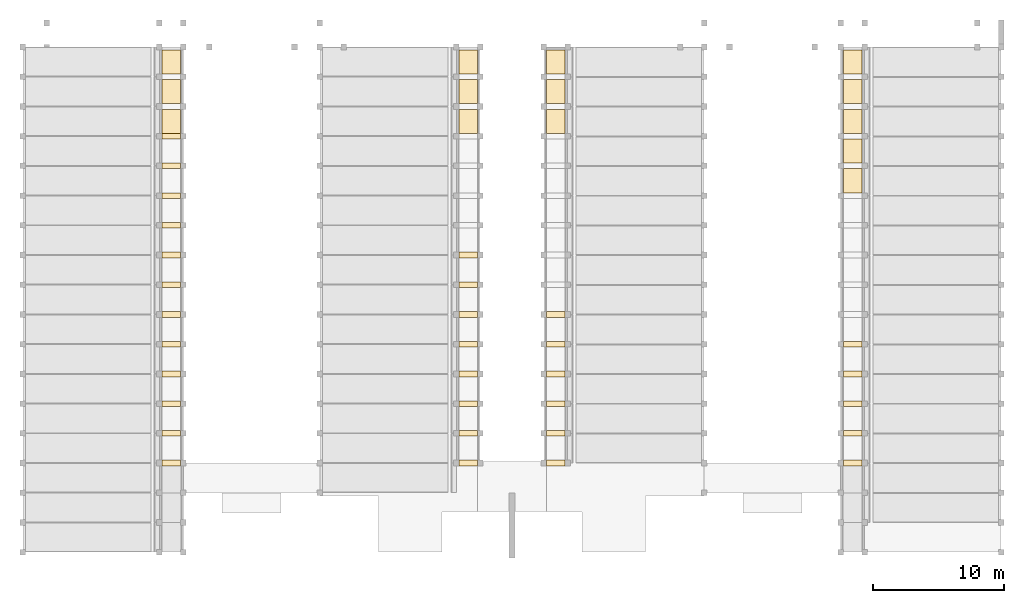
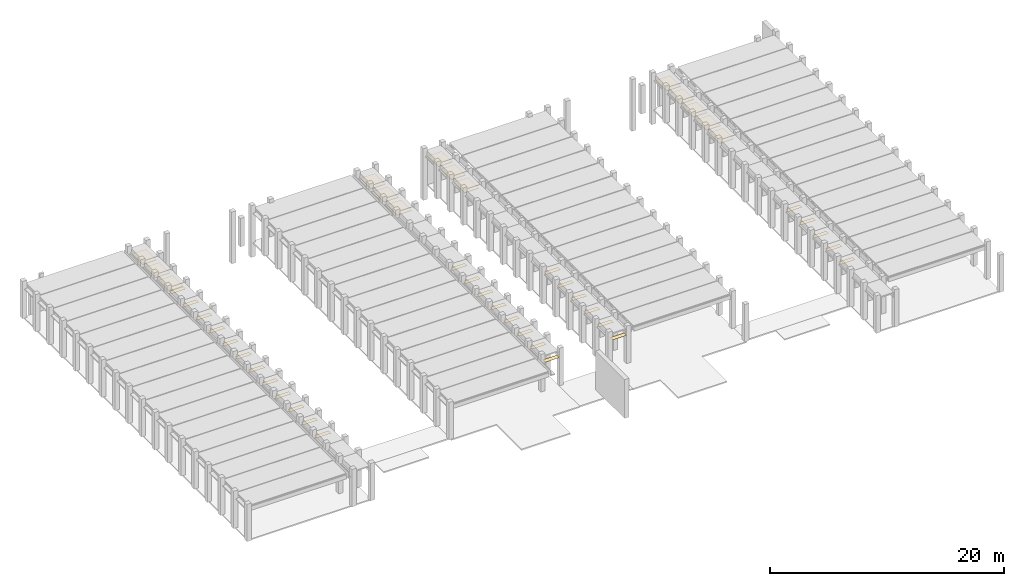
# One storey, part 20 of 21: 45 coverings.
"""IFC2X3 building model written with IfcOpenShell, lengths in millimetres."""

from ifc_helpers import new_model, entity, si_unit, converted_unit, derived_unit, direction, frame, frame_2d, origin, place, context, subcontext, project, spatial, rectangle, extrude, face_set, surface_model, material, layer, layer_set, layer_usage, type_object, element, save


model = new_model("IFC2X3")

# Units and contexts
model_context = context("Model", 3, precision=0.01, world=origin(), true_north=direction((6.12303176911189e-17, 1.0)))
body_context = subcontext(model_context, "Body", "Model", "MODEL_VIEW")
ifc_project = project(units=[si_unit("LENGTHUNIT", "METRE", prefix="MILLI"), si_unit("AREAUNIT", "SQUARE_METRE"), si_unit("VOLUMEUNIT", "CUBIC_METRE"), converted_unit("PLANEANGLEUNIT", "DEGREE", entity("IfcRatioMeasure", 0.0174532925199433), si_unit("PLANEANGLEUNIT", "RADIAN"), dimensions=[0, 0, 0, 0, 0, 0, 0]), si_unit("MASSUNIT", "GRAM", prefix="KILO"), derived_unit("MASSDENSITYUNIT", [(si_unit("MASSUNIT", "GRAM", prefix="KILO"), 1), (si_unit("LENGTHUNIT", "METRE"), -3)]), derived_unit("MOMENTOFINERTIAUNIT", [(si_unit("LENGTHUNIT", "METRE"), 4)]), si_unit("TIMEUNIT", "SECOND"), si_unit("FREQUENCYUNIT", "HERTZ"), si_unit("THERMODYNAMICTEMPERATUREUNIT", "DEGREE_CELSIUS"), derived_unit("THERMALTRANSMITTANCEUNIT", [(si_unit("MASSUNIT", "GRAM", prefix="KILO"), 1), (si_unit("THERMODYNAMICTEMPERATUREUNIT", "KELVIN"), -1), (si_unit("TIMEUNIT", "SECOND"), -3)]), derived_unit("VOLUMETRICFLOWRATEUNIT", [(si_unit("LENGTHUNIT", "METRE"), 3), (si_unit("TIMEUNIT", "SECOND"), -1)]), si_unit("ELECTRICCURRENTUNIT", "AMPERE"), si_unit("ELECTRICVOLTAGEUNIT", "VOLT"), si_unit("POWERUNIT", "WATT"), si_unit("FORCEUNIT", "NEWTON", prefix="KILO"), si_unit("ILLUMINANCEUNIT", "LUX"), si_unit("LUMINOUSFLUXUNIT", "LUMEN"), si_unit("LUMINOUSINTENSITYUNIT", "CANDELA"), derived_unit("USERDEFINED", [(si_unit("MASSUNIT", "GRAM", prefix="KILO"), -1), (si_unit("LENGTHUNIT", "METRE"), -2), (si_unit("TIMEUNIT", "SECOND"), 3), (si_unit("LUMINOUSFLUXUNIT", "LUMEN"), 1)]), derived_unit("LINEARVELOCITYUNIT", [(si_unit("LENGTHUNIT", "METRE"), 1), (si_unit("TIMEUNIT", "SECOND"), -1)]), si_unit("PRESSUREUNIT", "PASCAL"), derived_unit("USERDEFINED", [(si_unit("LENGTHUNIT", "METRE"), -2), (si_unit("MASSUNIT", "GRAM", prefix="KILO"), 1), (si_unit("TIMEUNIT", "SECOND"), -2)]), derived_unit("LINEARFORCEUNIT", [(si_unit("MASSUNIT", "GRAM", prefix="KILO"), 1), (si_unit("LENGTHUNIT", "METRE"), 1), (si_unit("TIMEUNIT", "SECOND"), -2), (si_unit("LENGTHUNIT", "METRE"), -1)]), derived_unit("PLANARFORCEUNIT", [(si_unit("MASSUNIT", "GRAM", prefix="KILO"), 1), (si_unit("LENGTHUNIT", "METRE"), 1), (si_unit("TIMEUNIT", "SECOND"), -2), (si_unit("LENGTHUNIT", "METRE"), -2)])], contexts=[model_context])

# Site, building, storey
site_placement = place(None, frame((10627.5135316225, 21939.0796949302, 0.0)))
site = spatial("IfcSite", under=ifc_project, at=site_placement, Name="Default", CompositionType="ELEMENT")
building_placement = place(site_placement, origin())
building = spatial("IfcBuilding", under=site, at=building_placement, CompositionType="ELEMENT")
storey_placement = place(building_placement, frame((0.0, 0.0, 7320.0)))
storey = spatial("IfcBuildingStorey", under=building, at=storey_placement, Name="R+2", CompositionType="ELEMENT", Elevation=7320.0)

# Coverings
ifc_material_1 = material(Name="Metal Stud Layer")
ifc_layer_1 = layer(ifc_material_1, 45.0)
ifc_material_2 = material(Name="PVC, Flexible")
ifc_layer_2 = layer(ifc_material_2, 12.0)
ifc_layer_set = layer_set([ifc_layer_1, ifc_layer_2], Name="Compound Ceiling:Plain")
ifc_layer_usage_1 = layer_usage(ifc_layer_set, "AXIS3", "POSITIVE", 0.0)
covering_type_1 = type_object("IfcCoveringType", Name="Compound Ceiling:Plain", PredefinedType="CEILING")
covering_1_placement = place(storey_placement, origin())
element("IfcCovering", 1, at=covering_1_placement, inside=storey, type_object=covering_type_1, material=ifc_layer_usage_1, Name="Compound Ceiling:Plain", ObjectType="Compound Ceiling:Plain", PredefinedType="CEILING", context=body_context, shape_type="SweptSolid", body=[
    extrude(rectangle(XDim=1828.30330426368, YDim=1400.00000000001, at=frame_2d((-1.08002495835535e-12, 0.0), x_axis=(1.0, 0.0))), frame((23257.4864683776, 15351.7686529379, 2959.0), z_axis=(0.0, 0.0, 1.0), x_axis=(0.0, -1.0, 0.0)), (0.0, 0.0, 1.0), 57.0),
])
ifc_layer_usage_2 = layer_usage(ifc_layer_set, "AXIS3", "POSITIVE", 0.0)
covering_type_2 = type_object("IfcCoveringType", Name="Compound Ceiling:Plain", PredefinedType="CEILING")
covering_2_placement = place(storey_placement, origin())
element("IfcCovering", 2, at=covering_2_placement, inside=storey, type_object=covering_type_2, material=ifc_layer_usage_2, Name="Compound Ceiling:Plain", ObjectType="Compound Ceiling:Plain", PredefinedType="CEILING", context=body_context, shape_type="SweptSolid", body=[
    extrude(rectangle(XDim=1828.30330426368, YDim=1400.00000000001, at=frame_2d((-1.08002495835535e-12, 0.0), x_axis=(1.0, 0.0))), frame((23257.4864683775, 13091.7686529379, 2959.0), z_axis=(0.0, 0.0, 1.0), x_axis=(0.0, -1.0, 0.0)), (0.0, 0.0, 1.0), 57.0),
])
ifc_layer_usage_3 = layer_usage(ifc_layer_set, "AXIS3", "POSITIVE", 0.0)
covering_type_3 = type_object("IfcCoveringType", Name="Compound Ceiling:Plain", PredefinedType="CEILING")
covering_3_placement = place(storey_placement, origin())
element("IfcCovering", 3, at=covering_3_placement, inside=storey, type_object=covering_type_3, material=ifc_layer_usage_3, Name="Compound Ceiling:Plain", ObjectType="Compound Ceiling:Plain", PredefinedType="CEILING", context=body_context, shape_type="SweptSolid", body=[
    extrude(rectangle(XDim=1828.30330426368, YDim=1400.00000000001, at=frame_2d((-1.08002495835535e-12, 0.0), x_axis=(1.0, 0.0))), frame((23257.4864683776, 10831.7686529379, 2959.0), z_axis=(0.0, 0.0, 1.0), x_axis=(0.0, -1.0, 0.0)), (0.0, 0.0, 1.0), 57.0),
])
ifc_layer_usage_4 = layer_usage(ifc_layer_set, "AXIS3", "POSITIVE", 0.0)
covering_type_4 = type_object("IfcCoveringType", Name="Compound Ceiling:Plain", PredefinedType="CEILING")
covering_4_placement = place(storey_placement, origin())
element("IfcCovering", 4, at=covering_4_placement, inside=storey, type_object=covering_type_4, material=ifc_layer_usage_4, Name="Compound Ceiling:Plain", ObjectType="Compound Ceiling:Plain", PredefinedType="CEILING", context=body_context, shape_type="SweptSolid", body=[
    extrude(rectangle(XDim=1828.30330426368, YDim=1400.00000000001, at=frame_2d((-1.08002495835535e-12, 0.0), x_axis=(1.0, 0.0))), frame((667.486468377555, 15351.768652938, 2959.0), z_axis=(0.0, 0.0, 1.0), x_axis=(0.0, -1.0, 0.0)), (0.0, 0.0, 1.0), 57.0),
])
ifc_layer_usage_5 = layer_usage(ifc_layer_set, "AXIS3", "POSITIVE", 0.0)
covering_type_5 = type_object("IfcCoveringType", Name="Compound Ceiling:Plain", PredefinedType="CEILING")
covering_5_placement = place(storey_placement, origin())
element("IfcCovering", 5, at=covering_5_placement, inside=storey, type_object=covering_type_5, material=ifc_layer_usage_5, Name="Compound Ceiling:Plain", ObjectType="Compound Ceiling:Plain", PredefinedType="CEILING", context=body_context, shape_type="SweptSolid", body=[
    extrude(rectangle(XDim=1828.30330426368, YDim=1400.00000000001, at=frame_2d((-1.08002495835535e-12, 0.0), x_axis=(1.0, 0.0))), frame((667.486468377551, 13091.768652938, 2959.0), z_axis=(0.0, 0.0, 1.0), x_axis=(0.0, -1.0, 0.0)), (0.0, 0.0, 1.0), 57.0),
])
ifc_layer_usage_6 = layer_usage(ifc_layer_set, "AXIS3", "POSITIVE", 0.0)
covering_type_6 = type_object("IfcCoveringType", Name="Compound Ceiling:Plain", PredefinedType="CEILING")
covering_6_placement = place(storey_placement, origin())
element("IfcCovering", 6, at=covering_6_placement, inside=storey, type_object=covering_type_6, material=ifc_layer_usage_6, Name="Compound Ceiling:Plain", ObjectType="Compound Ceiling:Plain", PredefinedType="CEILING", context=body_context, shape_type="SweptSolid", body=[
    extrude(rectangle(XDim=1828.30330426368, YDim=1400.00000000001, at=frame_2d((-1.08002495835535e-12, 0.0), x_axis=(1.0, 0.0))), frame((667.486468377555, 10831.768652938, 2959.0), z_axis=(0.0, 0.0, 1.0), x_axis=(0.0, -1.0, 0.0)), (0.0, 0.0, 1.0), 57.0),
])
ifc_layer_usage_7 = layer_usage(ifc_layer_set, "AXIS3", "POSITIVE", 0.0)
covering_type_7 = type_object("IfcCoveringType", Name="Compound Ceiling:Plain", PredefinedType="CEILING")
covering_7_placement = place(storey_placement, origin())
element("IfcCovering", 7, at=covering_7_placement, inside=storey, type_object=covering_type_7, material=ifc_layer_usage_7, Name="Compound Ceiling:Plain", ObjectType="Compound Ceiling:Plain", PredefinedType="CEILING", context=body_context, shape_type="SweptSolid", body=[
    extrude(rectangle(XDim=1400.00000000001, YDim=1828.30330426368, at=frame_2d((0.0, -1.08002495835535e-12), x_axis=(1.0, 0.0))), frame((29897.4864683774, 15351.7686529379, 2959.0), z_axis=(0.0, 0.0, 1.0), x_axis=(-1.0, 0.0, 0.0)), (0.0, 0.0, 1.0), 57.0),
])
ifc_layer_usage_8 = layer_usage(ifc_layer_set, "AXIS3", "POSITIVE", 0.0)
covering_type_8 = type_object("IfcCoveringType", Name="Compound Ceiling:Plain", PredefinedType="CEILING")
covering_8_placement = place(storey_placement, origin())
element("IfcCovering", 8, at=covering_8_placement, inside=storey, type_object=covering_type_8, material=ifc_layer_usage_8, Name="Compound Ceiling:Plain", ObjectType="Compound Ceiling:Plain", PredefinedType="CEILING", context=body_context, shape_type="SweptSolid", body=[
    extrude(rectangle(XDim=1400.00000000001, YDim=1828.30330426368, at=frame_2d((0.0, 1.08002495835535e-12), x_axis=(1.0, 0.0))), frame((29897.4864683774, 13091.7686529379, 2959.0), z_axis=(0.0, 0.0, 1.0), x_axis=(-1.0, 0.0, 0.0)), (0.0, 0.0, 1.0), 57.0),
])
ifc_layer_usage_9 = layer_usage(ifc_layer_set, "AXIS3", "POSITIVE", 0.0)
covering_type_9 = type_object("IfcCoveringType", Name="Compound Ceiling:Plain", PredefinedType="CEILING")
covering_9_placement = place(storey_placement, origin())
element("IfcCovering", 9, at=covering_9_placement, inside=storey, type_object=covering_type_9, material=ifc_layer_usage_9, Name="Compound Ceiling:Plain", ObjectType="Compound Ceiling:Plain", PredefinedType="CEILING", context=body_context, shape_type="SweptSolid", body=[
    extrude(rectangle(XDim=1400.00000000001, YDim=1828.30330426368, at=frame_2d((0.0, -1.08002495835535e-12), x_axis=(1.0, 0.0))), frame((29897.4864683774, 10831.7686529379, 2959.0), z_axis=(0.0, 0.0, 1.0), x_axis=(-1.0, 0.0, 0.0)), (0.0, 0.0, 1.0), 57.0),
])
ifc_layer_usage_10 = layer_usage(ifc_layer_set, "AXIS3", "POSITIVE", 0.0)
covering_type_10 = type_object("IfcCoveringType", Name="Compound Ceiling:Plain", PredefinedType="CEILING")
covering_10_placement = place(storey_placement, origin())
element("IfcCovering", 10, at=covering_10_placement, inside=storey, type_object=covering_type_10, material=ifc_layer_usage_10, Name="Compound Ceiling:Plain", ObjectType="Compound Ceiling:Plain", PredefinedType="CEILING", context=body_context, shape_type="SweptSolid", body=[
    extrude(rectangle(XDim=1400.00000000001, YDim=1828.30330426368, at=frame_2d((0.0, 1.08002495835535e-12), x_axis=(1.0, 0.0))), frame((52487.4864683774, 15351.768652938, 2959.0), z_axis=(0.0, 0.0, 1.0), x_axis=(-1.0, 0.0, 0.0)), (0.0, 0.0, 1.0), 57.0),
])
ifc_layer_usage_11 = layer_usage(ifc_layer_set, "AXIS3", "POSITIVE", 0.0)
covering_type_11 = type_object("IfcCoveringType", Name="Compound Ceiling:Plain", PredefinedType="CEILING")
covering_11_placement = place(storey_placement, origin())
element("IfcCovering", 11, at=covering_11_placement, inside=storey, type_object=covering_type_11, material=ifc_layer_usage_11, Name="Compound Ceiling:Plain", ObjectType="Compound Ceiling:Plain", PredefinedType="CEILING", context=body_context, shape_type="SweptSolid", body=[
    extrude(rectangle(XDim=1400.00000000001, YDim=1828.30330426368, at=frame_2d((0.0, -1.08002495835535e-12), x_axis=(1.0, 0.0))), frame((52487.4864683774, 13091.768652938, 2959.0), z_axis=(0.0, 0.0, 1.0), x_axis=(-1.0, 0.0, 0.0)), (0.0, 0.0, 1.0), 57.0),
])
ifc_layer_usage_12 = layer_usage(ifc_layer_set, "AXIS3", "POSITIVE", 0.0)
covering_type_12 = type_object("IfcCoveringType", Name="Compound Ceiling:Plain", PredefinedType="CEILING")
covering_12_placement = place(storey_placement, origin())
element("IfcCovering", 12, at=covering_12_placement, inside=storey, type_object=covering_type_12, material=ifc_layer_usage_12, Name="Compound Ceiling:Plain", ObjectType="Compound Ceiling:Plain", PredefinedType="CEILING", context=body_context, shape_type="SweptSolid", body=[
    extrude(rectangle(XDim=1400.00000000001, YDim=1828.30330426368, at=frame_2d((0.0, 1.08002495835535e-12), x_axis=(1.0, 0.0))), frame((52487.4864683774, 10831.768652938, 2959.0), z_axis=(0.0, 0.0, 1.0), x_axis=(-1.0, 0.0, 0.0)), (0.0, 0.0, 1.0), 57.0),
])
ifc_layer_usage_13 = layer_usage(ifc_layer_set, "AXIS3", "POSITIVE", 0.0)
covering_type_13 = type_object("IfcCoveringType", Name="Compound Ceiling:Plain", PredefinedType="CEILING")
covering_13_placement = place(storey_placement, origin())
element("IfcCovering", 13, at=covering_13_placement, inside=storey, type_object=covering_type_13, material=ifc_layer_usage_13, Name="Compound Ceiling:Plain", ObjectType="Compound Ceiling:Plain", PredefinedType="CEILING", context=body_context, shape_type="SweptSolid", body=[
    extrude(rectangle(XDim=1400.00000000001, YDim=1828.30330426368, at=frame_2d((0.0, -1.08002495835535e-12), x_axis=(1.0, 0.0))), frame((52487.4864683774, 8571.76865293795, 2959.0), z_axis=(0.0, 0.0, 1.0), x_axis=(-1.0, 0.0, 0.0)), (0.0, 0.0, 1.0), 57.0),
])
ifc_layer_usage_14 = layer_usage(ifc_layer_set, "AXIS3", "POSITIVE", 0.0)
covering_type_14 = type_object("IfcCoveringType", Name="Compound Ceiling:Plain", PredefinedType="CEILING")
covering_14_placement = place(storey_placement, origin())
element("IfcCovering", 14, at=covering_14_placement, inside=storey, type_object=covering_type_14, material=ifc_layer_usage_14, Name="Compound Ceiling:Plain", ObjectType="Compound Ceiling:Plain", PredefinedType="CEILING", context=body_context, shape_type="SweptSolid", body=[
    extrude(rectangle(XDim=1400.00000000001, YDim=1828.30330426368, at=frame_2d((0.0, 1.08002495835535e-12), x_axis=(1.0, 0.0))), frame((52487.4864683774, 6311.76865293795, 2959.0), z_axis=(0.0, 0.0, 1.0), x_axis=(-1.0, 0.0, 0.0)), (0.0, 0.0, 1.0), 57.0),
])
covering_type_15 = type_object("IfcCoveringType", Name="Basic Ceiling:Generic", PredefinedType="CEILING")
covering_15_placement = place(storey_placement, frame((22557.4864683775, 445.920305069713, 2959.0)))
element("IfcCovering", 15, at=covering_15_placement, inside=storey, type_object=covering_type_15, Name="Basic Ceiling:Generic", ObjectType="Basic Ceiling:Generic", PredefinedType="CEILING", context=body_context, shape_type="SurfaceModel", body=[
    surface_model("IfcFaceBasedSurfaceModel", [(0.0, 430.0, 0.0), (0.0, 0.0, 0.0), (1400.0, 0.0, 0.0), (1400.0, 430.0, 0.0)], [face_set([[[0, 1, 2, 3]]])]),
])
covering_type_16 = type_object("IfcCoveringType", Name="Basic Ceiling:Generic", PredefinedType="CEILING")
covering_16_placement = place(storey_placement, frame((22557.4864683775, -1814.07969493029, 2959.0)))
element("IfcCovering", 16, at=covering_16_placement, inside=storey, type_object=covering_type_16, Name="Basic Ceiling:Generic", ObjectType="Basic Ceiling:Generic", PredefinedType="CEILING", context=body_context, shape_type="SurfaceModel", body=[
    surface_model("IfcFaceBasedSurfaceModel", [(0.0, 430.0, 0.0), (0.0, 0.0, 0.0), (1400.0, 0.0, 0.0), (1400.0, 430.0, 0.0)], [face_set([[[0, 1, 2, 3]]])]),
])
covering_type_17 = type_object("IfcCoveringType", Name="Basic Ceiling:Generic", PredefinedType="CEILING")
covering_17_placement = place(storey_placement, frame((22557.4864683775, -4074.07969493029, 2959.0)))
element("IfcCovering", 17, at=covering_17_placement, inside=storey, type_object=covering_type_17, Name="Basic Ceiling:Generic", ObjectType="Basic Ceiling:Generic", PredefinedType="CEILING", context=body_context, shape_type="SurfaceModel", body=[
    surface_model("IfcFaceBasedSurfaceModel", [(0.0, 430.0, 0.0), (0.0, 0.0, 0.0), (1400.0, 0.0, 0.0), (1400.0, 430.0, 0.0)], [face_set([[[0, 1, 2, 3]]])]),
])
covering_type_18 = type_object("IfcCoveringType", Name="Basic Ceiling:Generic", PredefinedType="CEILING")
covering_18_placement = place(storey_placement, frame((22557.4864683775, -6334.07969493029, 2959.0)))
element("IfcCovering", 18, at=covering_18_placement, inside=storey, type_object=covering_type_18, Name="Basic Ceiling:Generic", ObjectType="Basic Ceiling:Generic", PredefinedType="CEILING", context=body_context, shape_type="SurfaceModel", body=[
    surface_model("IfcFaceBasedSurfaceModel", [(0.0, 430.0, 0.0), (0.0, 0.0, 0.0), (1400.0, 0.0, 0.0), (1400.0, 430.0, 0.0)], [face_set([[[0, 1, 2, 3]]])]),
])
covering_type_19 = type_object("IfcCoveringType", Name="Basic Ceiling:Generic", PredefinedType="CEILING")
covering_19_placement = place(storey_placement, frame((22557.4864683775, -8594.07969493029, 2959.0)))
element("IfcCovering", 19, at=covering_19_placement, inside=storey, type_object=covering_type_19, Name="Basic Ceiling:Generic", ObjectType="Basic Ceiling:Generic", PredefinedType="CEILING", context=body_context, shape_type="SurfaceModel", body=[
    surface_model("IfcFaceBasedSurfaceModel", [(0.0, 430.0, 0.0), (0.0, 0.0, 0.0), (1400.0, 0.0, 0.0), (1400.0, 430.0, 0.0)], [face_set([[[0, 1, 2, 3]]])]),
])
covering_type_20 = type_object("IfcCoveringType", Name="Basic Ceiling:Generic", PredefinedType="CEILING")
covering_20_placement = place(storey_placement, frame((22557.4864683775, -10854.0796949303, 2959.0)))
element("IfcCovering", 20, at=covering_20_placement, inside=storey, type_object=covering_type_20, Name="Basic Ceiling:Generic", ObjectType="Basic Ceiling:Generic", PredefinedType="CEILING", context=body_context, shape_type="SurfaceModel", body=[
    surface_model("IfcFaceBasedSurfaceModel", [(0.0, 430.0, 0.0), (0.0, 0.0, 0.0), (1400.0, 0.0, 0.0), (1400.0, 430.0, 0.0)], [face_set([[[0, 1, 2, 3]]])]),
])
covering_type_21 = type_object("IfcCoveringType", Name="Basic Ceiling:Generic", PredefinedType="CEILING")
covering_21_placement = place(storey_placement, frame((22557.4864683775, -13114.0796949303, 2959.0)))
element("IfcCovering", 21, at=covering_21_placement, inside=storey, type_object=covering_type_21, Name="Basic Ceiling:Generic", ObjectType="Basic Ceiling:Generic", PredefinedType="CEILING", context=body_context, shape_type="SurfaceModel", body=[
    surface_model("IfcFaceBasedSurfaceModel", [(0.0, 430.0, 0.0), (0.0, 0.0, 0.0), (1400.0, 0.0, 0.0), (1400.0, 430.0, 0.0)], [face_set([[[0, 1, 2, 3]]])]),
])
covering_type_22 = type_object("IfcCoveringType", Name="Basic Ceiling:Generic", PredefinedType="CEILING")
covering_22_placement = place(storey_placement, frame((22557.4864683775, -15374.0796949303, 2959.0)))
element("IfcCovering", 22, at=covering_22_placement, inside=storey, type_object=covering_type_22, Name="Basic Ceiling:Generic", ObjectType="Basic Ceiling:Generic", PredefinedType="CEILING", context=body_context, shape_type="SurfaceModel", body=[
    surface_model("IfcFaceBasedSurfaceModel", [(0.0, 430.0, 0.0), (0.0, 0.0, 0.0), (1400.0, 0.0, 0.0), (1400.0, 430.0, 0.0)], [face_set([[[0, 1, 2, 3]]])]),
])
covering_type_23 = type_object("IfcCoveringType", Name="Basic Ceiling:Generic", PredefinedType="CEILING")
covering_23_placement = place(storey_placement, frame((-32.5135316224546, 9485.92030506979, 2959.0)))
element("IfcCovering", 23, at=covering_23_placement, inside=storey, type_object=covering_type_23, Name="Basic Ceiling:Generic", ObjectType="Basic Ceiling:Generic", PredefinedType="CEILING", context=body_context, shape_type="SurfaceModel", body=[
    surface_model("IfcFaceBasedSurfaceModel", [(0.0, 430.0, 0.0), (0.0, 0.0, 0.0), (1400.0, 0.0, 0.0), (1400.0, 430.0, 0.0)], [face_set([[[0, 1, 2, 3]]])]),
])
covering_type_24 = type_object("IfcCoveringType", Name="Basic Ceiling:Generic", PredefinedType="CEILING")
covering_24_placement = place(storey_placement, frame((-32.5135316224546, 7225.92030506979, 2959.0)))
element("IfcCovering", 24, at=covering_24_placement, inside=storey, type_object=covering_type_24, Name="Basic Ceiling:Generic", ObjectType="Basic Ceiling:Generic", PredefinedType="CEILING", context=body_context, shape_type="SurfaceModel", body=[
    surface_model("IfcFaceBasedSurfaceModel", [(0.0, 430.0, 0.0), (0.0, 0.0, 0.0), (1400.0, 0.0, 0.0), (1400.0, 430.0, 0.0)], [face_set([[[0, 1, 2, 3]]])]),
])
covering_type_25 = type_object("IfcCoveringType", Name="Basic Ceiling:Generic", PredefinedType="CEILING")
covering_25_placement = place(storey_placement, frame((-32.5135316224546, 4965.92030506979, 2959.0)))
element("IfcCovering", 25, at=covering_25_placement, inside=storey, type_object=covering_type_25, Name="Basic Ceiling:Generic", ObjectType="Basic Ceiling:Generic", PredefinedType="CEILING", context=body_context, shape_type="SurfaceModel", body=[
    surface_model("IfcFaceBasedSurfaceModel", [(0.0, 430.0, 0.0), (0.0, 0.0, 0.0), (1400.0, 0.0, 0.0), (1400.0, 430.0, 0.0)], [face_set([[[0, 1, 2, 3]]])]),
])
covering_type_26 = type_object("IfcCoveringType", Name="Basic Ceiling:Generic", PredefinedType="CEILING")
covering_26_placement = place(storey_placement, frame((-32.5135316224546, 2705.92030506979, 2959.0)))
element("IfcCovering", 26, at=covering_26_placement, inside=storey, type_object=covering_type_26, Name="Basic Ceiling:Generic", ObjectType="Basic Ceiling:Generic", PredefinedType="CEILING", context=body_context, shape_type="SurfaceModel", body=[
    surface_model("IfcFaceBasedSurfaceModel", [(0.0, 430.0, 0.0), (0.0, 0.0, 0.0), (1400.0, 0.0, 0.0), (1400.0, 430.0, 0.0)], [face_set([[[0, 1, 2, 3]]])]),
])
covering_type_27 = type_object("IfcCoveringType", Name="Basic Ceiling:Generic", PredefinedType="CEILING")
covering_27_placement = place(storey_placement, frame((-32.5135316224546, 445.920305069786, 2959.0)))
element("IfcCovering", 27, at=covering_27_placement, inside=storey, type_object=covering_type_27, Name="Basic Ceiling:Generic", ObjectType="Basic Ceiling:Generic", PredefinedType="CEILING", context=body_context, shape_type="SurfaceModel", body=[
    surface_model("IfcFaceBasedSurfaceModel", [(0.0, 430.0, 0.0), (0.0, 0.0, 0.0), (1400.0, 0.0, 0.0), (1400.0, 430.0, 0.0)], [face_set([[[0, 1, 2, 3]]])]),
])
covering_type_28 = type_object("IfcCoveringType", Name="Basic Ceiling:Generic", PredefinedType="CEILING")
covering_28_placement = place(storey_placement, frame((-32.5135316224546, -1814.07969493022, 2959.0)))
element("IfcCovering", 28, at=covering_28_placement, inside=storey, type_object=covering_type_28, Name="Basic Ceiling:Generic", ObjectType="Basic Ceiling:Generic", PredefinedType="CEILING", context=body_context, shape_type="SurfaceModel", body=[
    surface_model("IfcFaceBasedSurfaceModel", [(0.0, 430.0, 0.0), (0.0, 0.0, 0.0), (1400.0, 0.0, 0.0), (1400.0, 430.0, 0.0)], [face_set([[[0, 1, 2, 3]]])]),
])
covering_type_29 = type_object("IfcCoveringType", Name="Basic Ceiling:Generic", PredefinedType="CEILING")
covering_29_placement = place(storey_placement, frame((-32.5135316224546, -4074.07969493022, 2959.0)))
element("IfcCovering", 29, at=covering_29_placement, inside=storey, type_object=covering_type_29, Name="Basic Ceiling:Generic", ObjectType="Basic Ceiling:Generic", PredefinedType="CEILING", context=body_context, shape_type="SurfaceModel", body=[
    surface_model("IfcFaceBasedSurfaceModel", [(0.0, 430.0, 0.0), (0.0, 0.0, 0.0), (1400.0, 0.0, 0.0), (1400.0, 430.0, 0.0)], [face_set([[[0, 1, 2, 3]]])]),
])
covering_type_30 = type_object("IfcCoveringType", Name="Basic Ceiling:Generic", PredefinedType="CEILING")
covering_30_placement = place(storey_placement, frame((-32.5135316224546, -6334.07969493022, 2959.0)))
element("IfcCovering", 30, at=covering_30_placement, inside=storey, type_object=covering_type_30, Name="Basic Ceiling:Generic", ObjectType="Basic Ceiling:Generic", PredefinedType="CEILING", context=body_context, shape_type="SurfaceModel", body=[
    surface_model("IfcFaceBasedSurfaceModel", [(0.0, 430.0, 0.0), (0.0, 0.0, 0.0), (1400.0, 0.0, 0.0), (1400.0, 430.0, 0.0)], [face_set([[[0, 1, 2, 3]]])]),
])
covering_type_31 = type_object("IfcCoveringType", Name="Basic Ceiling:Generic", PredefinedType="CEILING")
covering_31_placement = place(storey_placement, frame((-32.5135316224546, -8594.07969493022, 2959.0)))
element("IfcCovering", 31, at=covering_31_placement, inside=storey, type_object=covering_type_31, Name="Basic Ceiling:Generic", ObjectType="Basic Ceiling:Generic", PredefinedType="CEILING", context=body_context, shape_type="SurfaceModel", body=[
    surface_model("IfcFaceBasedSurfaceModel", [(0.0, 430.0, 0.0), (0.0, 0.0, 0.0), (1400.0, 0.0, 0.0), (1400.0, 430.0, 0.0)], [face_set([[[0, 1, 2, 3]]])]),
])
covering_type_32 = type_object("IfcCoveringType", Name="Basic Ceiling:Generic", PredefinedType="CEILING")
covering_32_placement = place(storey_placement, frame((-32.5135316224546, -10854.0796949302, 2959.0)))
element("IfcCovering", 32, at=covering_32_placement, inside=storey, type_object=covering_type_32, Name="Basic Ceiling:Generic", ObjectType="Basic Ceiling:Generic", PredefinedType="CEILING", context=body_context, shape_type="SurfaceModel", body=[
    surface_model("IfcFaceBasedSurfaceModel", [(0.0, 430.0, 0.0), (0.0, 0.0, 0.0), (1400.0, 0.0, 0.0), (1400.0, 430.0, 0.0)], [face_set([[[0, 1, 2, 3]]])]),
])
covering_type_33 = type_object("IfcCoveringType", Name="Basic Ceiling:Generic", PredefinedType="CEILING")
covering_33_placement = place(storey_placement, frame((-32.5135316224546, -13114.0796949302, 2959.0)))
element("IfcCovering", 33, at=covering_33_placement, inside=storey, type_object=covering_type_33, Name="Basic Ceiling:Generic", ObjectType="Basic Ceiling:Generic", PredefinedType="CEILING", context=body_context, shape_type="SurfaceModel", body=[
    surface_model("IfcFaceBasedSurfaceModel", [(0.0, 430.0, 0.0), (0.0, 0.0, 0.0), (1400.0, 0.0, 0.0), (1400.0, 430.0, 0.0)], [face_set([[[0, 1, 2, 3]]])]),
])
covering_type_34 = type_object("IfcCoveringType", Name="Basic Ceiling:Generic", PredefinedType="CEILING")
covering_34_placement = place(storey_placement, frame((-32.5135316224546, -15374.0796949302, 2959.0)))
element("IfcCovering", 34, at=covering_34_placement, inside=storey, type_object=covering_type_34, Name="Basic Ceiling:Generic", ObjectType="Basic Ceiling:Generic", PredefinedType="CEILING", context=body_context, shape_type="SurfaceModel", body=[
    surface_model("IfcFaceBasedSurfaceModel", [(0.0, 430.0, 0.0), (0.0, 0.0, 0.0), (1400.0, 0.0, 0.0), (1400.0, 430.0, 0.0)], [face_set([[[0, 1, 2, 3]]])]),
])
covering_type_35 = type_object("IfcCoveringType", Name="Basic Ceiling:Generic", PredefinedType="CEILING")
covering_35_placement = place(storey_placement, frame((29197.4864683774, -4074.07969493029, 2959.0)))
element("IfcCovering", 35, at=covering_35_placement, inside=storey, type_object=covering_type_35, Name="Basic Ceiling:Generic", ObjectType="Basic Ceiling:Generic", PredefinedType="CEILING", context=body_context, shape_type="SurfaceModel", body=[
    surface_model("IfcFaceBasedSurfaceModel", [(1400.0, 430.0, 0.0), (0.0, 430.0, 0.0), (0.0, 0.0, 0.0), (1400.0, 0.0, 0.0)], [face_set([[[0, 1, 2, 3]]])]),
])
covering_type_36 = type_object("IfcCoveringType", Name="Basic Ceiling:Generic", PredefinedType="CEILING")
covering_36_placement = place(storey_placement, frame((29197.4864683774, -6334.07969493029, 2959.0)))
element("IfcCovering", 36, at=covering_36_placement, inside=storey, type_object=covering_type_36, Name="Basic Ceiling:Generic", ObjectType="Basic Ceiling:Generic", PredefinedType="CEILING", context=body_context, shape_type="SurfaceModel", body=[
    surface_model("IfcFaceBasedSurfaceModel", [(1400.0, 430.0, 0.0), (0.0, 430.0, 0.0), (0.0, 0.0, 0.0), (1400.0, 0.0, 0.0)], [face_set([[[0, 1, 2, 3]]])]),
])
covering_type_37 = type_object("IfcCoveringType", Name="Basic Ceiling:Generic", PredefinedType="CEILING")
covering_37_placement = place(storey_placement, frame((29197.4864683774, -8594.07969493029, 2959.0)))
element("IfcCovering", 37, at=covering_37_placement, inside=storey, type_object=covering_type_37, Name="Basic Ceiling:Generic", ObjectType="Basic Ceiling:Generic", PredefinedType="CEILING", context=body_context, shape_type="SurfaceModel", body=[
    surface_model("IfcFaceBasedSurfaceModel", [(1400.0, 430.0, 0.0), (0.0, 430.0, 0.0), (0.0, 0.0, 0.0), (1400.0, 0.0, 0.0)], [face_set([[[0, 1, 2, 3]]])]),
])
covering_type_38 = type_object("IfcCoveringType", Name="Basic Ceiling:Generic", PredefinedType="CEILING")
covering_38_placement = place(storey_placement, frame((29197.4864683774, -10854.0796949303, 2959.0)))
element("IfcCovering", 38, at=covering_38_placement, inside=storey, type_object=covering_type_38, Name="Basic Ceiling:Generic", ObjectType="Basic Ceiling:Generic", PredefinedType="CEILING", context=body_context, shape_type="SurfaceModel", body=[
    surface_model("IfcFaceBasedSurfaceModel", [(1400.0, 430.0, 0.0), (0.0, 430.0, 0.0), (0.0, 0.0, 0.0), (1400.0, 0.0, 0.0)], [face_set([[[0, 1, 2, 3]]])]),
])
covering_type_39 = type_object("IfcCoveringType", Name="Basic Ceiling:Generic", PredefinedType="CEILING")
covering_39_placement = place(storey_placement, frame((29197.4864683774, -13114.0796949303, 2959.0)))
element("IfcCovering", 39, at=covering_39_placement, inside=storey, type_object=covering_type_39, Name="Basic Ceiling:Generic", ObjectType="Basic Ceiling:Generic", PredefinedType="CEILING", context=body_context, shape_type="SurfaceModel", body=[
    surface_model("IfcFaceBasedSurfaceModel", [(1400.0, 430.0, 0.0), (0.0, 430.0, 0.0), (0.0, 0.0, 0.0), (1400.0, 0.0, 0.0)], [face_set([[[0, 1, 2, 3]]])]),
])
covering_type_40 = type_object("IfcCoveringType", Name="Basic Ceiling:Generic", PredefinedType="CEILING")
covering_40_placement = place(storey_placement, frame((29197.4864683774, -15374.0796949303, 2959.0)))
element("IfcCovering", 40, at=covering_40_placement, inside=storey, type_object=covering_type_40, Name="Basic Ceiling:Generic", ObjectType="Basic Ceiling:Generic", PredefinedType="CEILING", context=body_context, shape_type="SurfaceModel", body=[
    surface_model("IfcFaceBasedSurfaceModel", [(1400.0, 430.0, 0.0), (0.0, 430.0, 0.0), (0.0, 0.0, 0.0), (1400.0, 0.0, 0.0)], [face_set([[[0, 1, 2, 3]]])]),
])
covering_type_41 = type_object("IfcCoveringType", Name="Basic Ceiling:Generic", PredefinedType="CEILING")
covering_41_placement = place(storey_placement, frame((51787.4864683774, -6334.07969493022, 2959.0)))
element("IfcCovering", 41, at=covering_41_placement, inside=storey, type_object=covering_type_41, Name="Basic Ceiling:Generic", ObjectType="Basic Ceiling:Generic", PredefinedType="CEILING", context=body_context, shape_type="SurfaceModel", body=[
    surface_model("IfcFaceBasedSurfaceModel", [(1400.0, 430.0, 0.0), (0.0, 430.0, 0.0), (0.0, 0.0, 0.0), (1400.0, 0.0, 0.0)], [face_set([[[0, 1, 2, 3]]])]),
])
covering_type_42 = type_object("IfcCoveringType", Name="Basic Ceiling:Generic", PredefinedType="CEILING")
covering_42_placement = place(storey_placement, frame((51787.4864683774, -8594.07969493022, 2959.0)))
element("IfcCovering", 42, at=covering_42_placement, inside=storey, type_object=covering_type_42, Name="Basic Ceiling:Generic", ObjectType="Basic Ceiling:Generic", PredefinedType="CEILING", context=body_context, shape_type="SurfaceModel", body=[
    surface_model("IfcFaceBasedSurfaceModel", [(1400.0, 430.0, 0.0), (0.0, 430.0, 0.0), (0.0, 0.0, 0.0), (1400.0, 0.0, 0.0)], [face_set([[[0, 1, 2, 3]]])]),
])
covering_type_43 = type_object("IfcCoveringType", Name="Basic Ceiling:Generic", PredefinedType="CEILING")
covering_43_placement = place(storey_placement, frame((51787.4864683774, -10854.0796949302, 2959.0)))
element("IfcCovering", 43, at=covering_43_placement, inside=storey, type_object=covering_type_43, Name="Basic Ceiling:Generic", ObjectType="Basic Ceiling:Generic", PredefinedType="CEILING", context=body_context, shape_type="SurfaceModel", body=[
    surface_model("IfcFaceBasedSurfaceModel", [(1400.0, 430.0, 0.0), (0.0, 430.0, 0.0), (0.0, 0.0, 0.0), (1400.0, 0.0, 0.0)], [face_set([[[0, 1, 2, 3]]])]),
])
covering_type_44 = type_object("IfcCoveringType", Name="Basic Ceiling:Generic", PredefinedType="CEILING")
covering_44_placement = place(storey_placement, frame((51787.4864683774, -13114.0796949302, 2959.0)))
element("IfcCovering", 44, at=covering_44_placement, inside=storey, type_object=covering_type_44, Name="Basic Ceiling:Generic", ObjectType="Basic Ceiling:Generic", PredefinedType="CEILING", context=body_context, shape_type="SurfaceModel", body=[
    surface_model("IfcFaceBasedSurfaceModel", [(1400.0, 430.0, 0.0), (0.0, 430.0, 0.0), (0.0, 0.0, 0.0), (1400.0, 0.0, 0.0)], [face_set([[[0, 1, 2, 3]]])]),
])
covering_type_45 = type_object("IfcCoveringType", Name="Basic Ceiling:Generic", PredefinedType="CEILING")
covering_45_placement = place(storey_placement, frame((51787.4864683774, -15374.0796949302, 2959.0)))
element("IfcCovering", 45, at=covering_45_placement, inside=storey, type_object=covering_type_45, Name="Basic Ceiling:Generic", ObjectType="Basic Ceiling:Generic", PredefinedType="CEILING", context=body_context, shape_type="SurfaceModel", body=[
    surface_model("IfcFaceBasedSurfaceModel", [(1400.0, 430.0, 0.0), (0.0, 430.0, 0.0), (0.0, 0.0, 0.0), (1400.0, 0.0, 0.0)], [face_set([[[0, 1, 2, 3]]])]),
])

save(model, "model.ifc")
